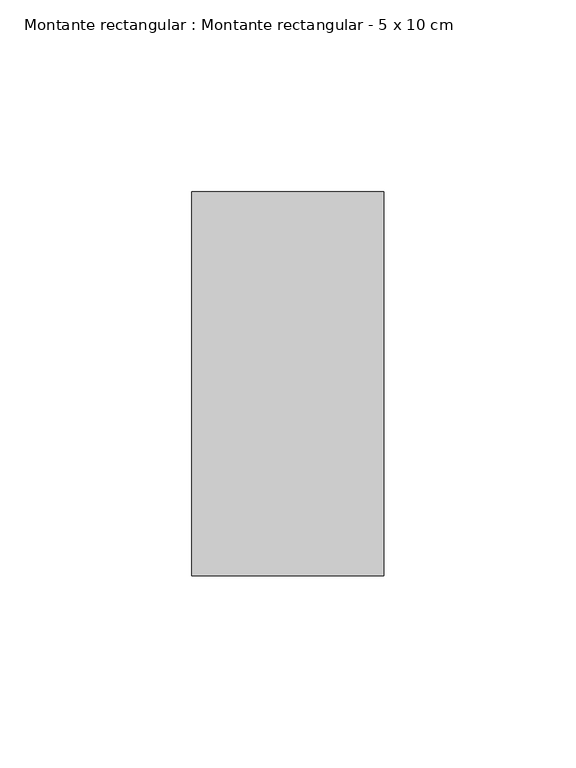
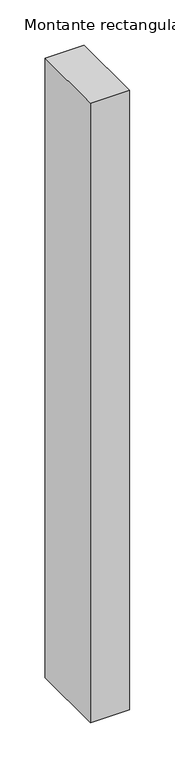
"""IFC4 building model written with IfcOpenShell, lengths in millimetres: member geometry, Montante rectangular : Montante rectangular - 5 x 10 cm."""

from ifc_helpers import new_model, si_unit, frame, origin, place, context, project, spatial, polyline, outline, extrude, source, transform, mapped, element, save


def montante_rectangular_montante_rectangular_5_x_10_cm_6d8011f0(model_context):
    return source(origin(), model_context, "Body", "SweptSolid", [
        extrude(outline(polyline([(25.0, 50.0), (25.0, -50.0), (-25.0, -50.0), (-25.0, 50.0), (25.0, 50.0)])), frame((0.0, 0.0, -835.0), z_axis=(0.0, 0.0, 1.0), x_axis=(1.0, 0.0, 0.0)), (0.0, 0.0, 1.0), 835.0),
    ])


if __name__ == "__main__":
    model = new_model("IFC4")
    model_context = context("Model", 3, world=origin())
    ifc_project = project(units=[si_unit("LENGTHUNIT", "METRE", prefix="MILLI")], contexts=[model_context])
    site = spatial("IfcSite", under=ifc_project)
    building = spatial("IfcBuilding", under=site)
    placement = place(None, origin())
    montante_rectangular_montante_rectangular_5_x_10_cm_shape = montante_rectangular_montante_rectangular_5_x_10_cm_6d8011f0(model_context)
    element("IfcMember", 1, ObjectType="Montante rectangular : Montante rectangular - 5 x 10 cm", at=placement, inside=building, context=model_context, shape_type="MappedRepresentation", body=[
        mapped(montante_rectangular_montante_rectangular_5_x_10_cm_shape, transform((0.0, 0.0, 0.0), x_axis=(1.0, 0.0, 0.0), y_axis=(0.0, 1.0, 0.0), z_axis=(0.0, 0.0, 1.0))),
    ])
    save(model, "model.ifc")
